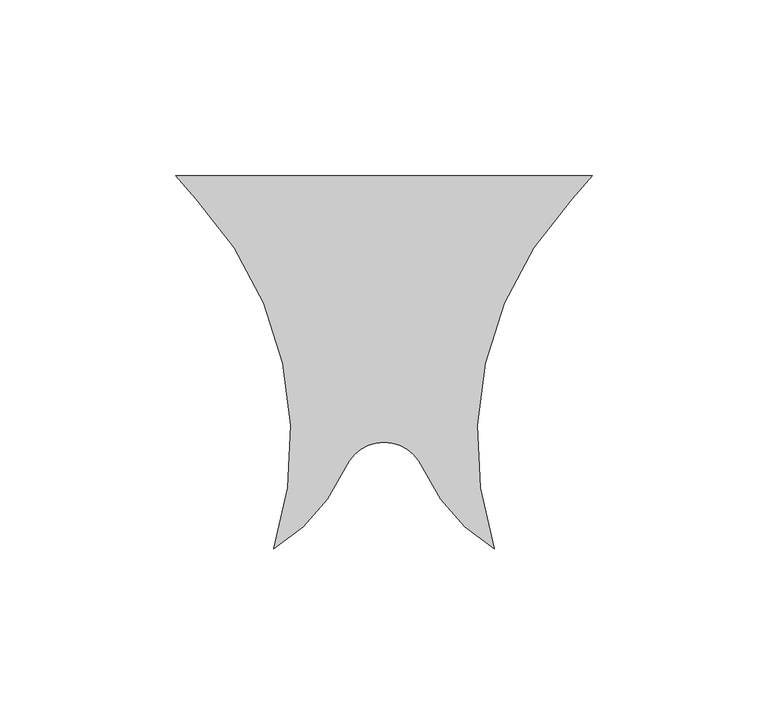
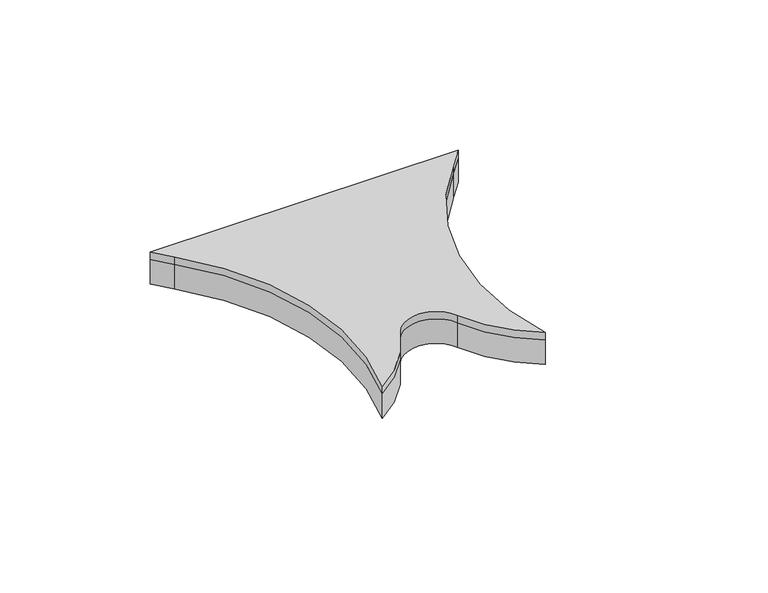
"""IFC4 building model written with IfcOpenShell, lengths in millimetres: proxy geometry, FilzFelt_Fish_Block : Fish Block."""

from ifc_helpers import new_model, si_unit, point, frame, frame_2d, origin, origin_with_axes, place, context, project, spatial, polyline, circle_curve, trimmed, segment, composite_curve, outline, extrude, source, transform, mapped, element, save


def specialty_equipment_28d2c19e(model_context):
    return source(origin(), model_context, "Body", "SweptSolid", [
        extrude(outline(composite_curve([segment(trimmed(circle_curve(frame_2d((126.6124317, -137.2240266)), 100.2293629), [point((53.5486457, -68.6120133))], [point((31.2619065, -168.1141956))], True, "CARTESIAN"), True, "CONTINUOUS"), segment(trimmed(circle_curve(frame_2d((57.9263497, -124.2921115)), 51.2968574), [point((31.2619065, -168.1141956))], [point((11.0103348, -145.0347036))], False, "CARTESIAN"), True, "CONTINUOUS"), segment(trimmed(circle_curve(frame_2d((0.0, -149.9026124)), 12.0384388), [point((11.0103348, -145.0347036))], [point((-11.0103348, -145.0347036))], True, "CARTESIAN"), True, "CONTINUOUS"), segment(trimmed(circle_curve(frame_2d((-57.9263497, -124.2921115)), 51.2968574), [point((-11.0103348, -145.0347036))], [point((-31.2619065, -168.1141956))], False, "CARTESIAN"), True, "CONTINUOUS"), segment(trimmed(circle_curve(frame_2d((-126.6124317, -137.2240266)), 100.2293629), [point((-31.2619065, -168.1141956))], [point((-53.5486457, -68.6120133))], True, "CARTESIAN"), True, "CONTINUOUS"), segment(trimmed(circle_curve(frame_2d((19.5151403, 0.0)), 100.2293629), [point((-53.5486457, -68.6120133))], [point((-59.1130093, -62.1573751))], False, "CARTESIAN"), True, "CONTINUOUS"), segment(polyline([(-59.1130093, -62.1573751), (59.1130093, -62.1573751)]), True, "CONTINUOUS"), segment(trimmed(circle_curve(frame_2d((-19.5151403, 0.0)), 100.2293629), [point((59.1130093, -62.1573751))], [point((53.5486457, -68.6120133))], False, "CARTESIAN"), True, "CONTINUOUS")], self_intersect=False)), frame((0.0, 0.0, 10.0210937), z_axis=(0.0, 0.0, 1.0), x_axis=(1.0, 0.0, 0.0)), (0.0, 0.0, 1.0), 2.9765625),
        extrude(outline(composite_curve([segment(trimmed(circle_curve(frame_2d((57.9263497, -124.2921115)), 51.2968574), [point((31.2619065, -168.1141956))], [point((11.0103348, -145.0347036))], False, "CARTESIAN"), True, "CONTINUOUS"), segment(trimmed(circle_curve(frame_2d((0.0, -149.9026124)), 12.0384388), [point((11.0103348, -145.0347036))], [point((-11.0103348, -145.0347036))], True, "CARTESIAN"), True, "CONTINUOUS"), segment(trimmed(circle_curve(frame_2d((-57.9263497, -124.2921115)), 51.2968574), [point((-11.0103348, -145.0347036))], [point((-31.2619065, -168.1141956))], False, "CARTESIAN"), True, "CONTINUOUS"), segment(trimmed(circle_curve(frame_2d((-126.6124317, -137.2240266)), 100.2293629), [point((-31.2619065, -168.1141956))], [point((-53.5486457, -68.6120133))], True, "CARTESIAN"), True, "CONTINUOUS"), segment(trimmed(circle_curve(frame_2d((19.5151403, 0.0)), 100.2293629), [point((-53.5486457, -68.6120133))], [point((-59.1130093, -62.1573751))], False, "CARTESIAN"), True, "CONTINUOUS"), segment(polyline([(-59.1130093, -62.1573751), (59.1130093, -62.1573751)]), True, "CONTINUOUS"), segment(trimmed(circle_curve(frame_2d((-19.5151403, 0.0)), 100.2293629), [point((59.1130093, -62.1573751))], [point((53.5486457, -68.6120133))], False, "CARTESIAN"), True, "CONTINUOUS"), segment(trimmed(circle_curve(frame_2d((126.6124317, -137.2240266)), 100.2293629), [point((53.5486457, -68.6120133))], [point((31.2619065, -168.1141956))], True, "CARTESIAN"), True, "CONTINUOUS")], self_intersect=False)), origin_with_axes(), (0.0, 0.0, 1.0), 10.0210938),
    ])


if __name__ == "__main__":
    model = new_model("IFC4")
    model_context = context("Model", 3, world=origin())
    ifc_project = project(units=[si_unit("LENGTHUNIT", "METRE", prefix="MILLI")], contexts=[model_context])
    site = spatial("IfcSite", under=ifc_project)
    building = spatial("IfcBuilding", under=site)
    placement = place(None, origin())
    specialty_equipment_shape = specialty_equipment_28d2c19e(model_context)
    element("IfcBuildingElementProxy", 1, Name="FilzFelt_Fish_Block : Fish Block", ObjectType="FilzFelt_Fish_Block : Fish Block", at=placement, inside=building, context=model_context, shape_type="MappedRepresentation", body=[
        mapped(specialty_equipment_shape, transform((0.0, 0.0, 0.0), x_axis=(1.0, 0.0, 0.0), y_axis=(0.0, 1.0, 0.0), z_axis=(0.0, 0.0, 1.0))),
    ])
    save(model, "model.ifc")
